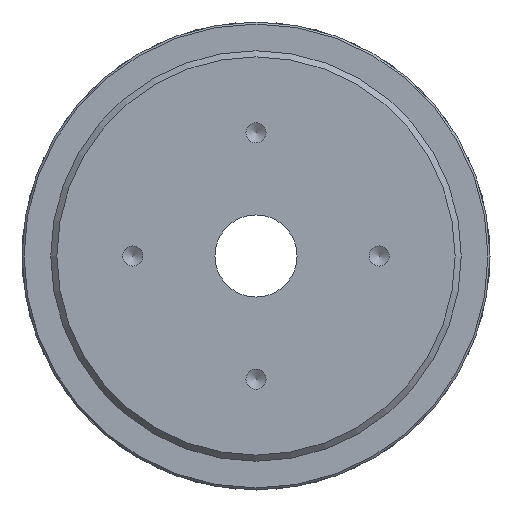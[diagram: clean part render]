
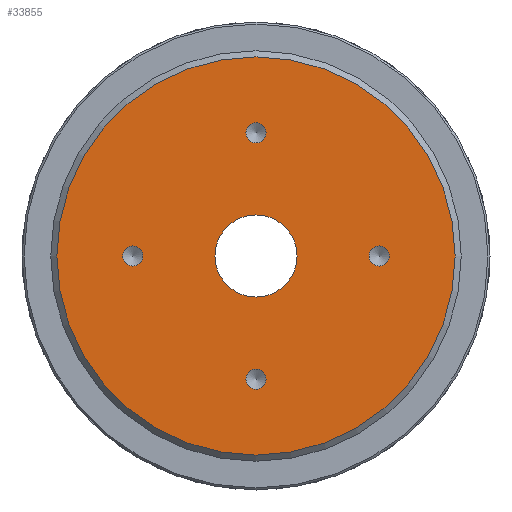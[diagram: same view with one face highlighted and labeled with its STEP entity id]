
A CAD part, left-side view. The second image highlights one B-rep face of the part: STEP entity #33855.
In plain terms, the highlighted planar face has unit normal (-1, 0, 0).
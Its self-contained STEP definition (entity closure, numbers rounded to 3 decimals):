
#3050=FACE_BOUND('',#10518,.T.);
#3051=FACE_BOUND('',#10519,.T.);
#3052=FACE_BOUND('',#10520,.T.);
#3053=FACE_BOUND('',#10521,.T.);
#3054=FACE_BOUND('',#10522,.T.);
#8744=FACE_OUTER_BOUND('',#10517,.T.);
#10517=EDGE_LOOP('',(#30371));
#10518=EDGE_LOOP('',(#30372,#30373));
#10519=EDGE_LOOP('',(#30374,#30375));
#10520=EDGE_LOOP('',(#30376,#30377));
#10521=EDGE_LOOP('',(#30378,#30379));
#10522=EDGE_LOOP('',(#30380,#30381));
#11506=CIRCLE('',#38775,48.5);
#11507=CIRCLE('',#38777,10.);
#11508=CIRCLE('',#38778,10.);
#11509=CIRCLE('',#38779,2.459);
#11510=CIRCLE('',#38780,2.459);
#11511=CIRCLE('',#38781,2.459);
#11512=CIRCLE('',#38782,2.459);
#11513=CIRCLE('',#38783,2.459);
#11514=CIRCLE('',#38784,2.459);
#11515=CIRCLE('',#38785,2.459);
#11516=CIRCLE('',#38786,2.459);
#14943=VERTEX_POINT('',#61040);
#14944=VERTEX_POINT('',#61044);
#14945=VERTEX_POINT('',#61045);
#14946=VERTEX_POINT('',#61048);
#14947=VERTEX_POINT('',#61049);
#14948=VERTEX_POINT('',#61052);
#14949=VERTEX_POINT('',#61053);
#14950=VERTEX_POINT('',#61056);
#14951=VERTEX_POINT('',#61057);
#14952=VERTEX_POINT('',#61060);
#14953=VERTEX_POINT('',#61061);
#20098=EDGE_CURVE('',#14943,#14943,#11506,.T.);
#20099=EDGE_CURVE('',#14944,#14945,#11507,.T.);
#20100=EDGE_CURVE('',#14945,#14944,#11508,.T.);
#20101=EDGE_CURVE('',#14946,#14947,#11509,.T.);
#20102=EDGE_CURVE('',#14947,#14946,#11510,.T.);
#20103=EDGE_CURVE('',#14948,#14949,#11511,.T.);
#20104=EDGE_CURVE('',#14949,#14948,#11512,.T.);
#20105=EDGE_CURVE('',#14950,#14951,#11513,.T.);
#20106=EDGE_CURVE('',#14951,#14950,#11514,.T.);
#20107=EDGE_CURVE('',#14952,#14953,#11515,.T.);
#20108=EDGE_CURVE('',#14953,#14952,#11516,.T.);
#30371=ORIENTED_EDGE('',*,*,#20098,.F.);
#30372=ORIENTED_EDGE('',*,*,#20099,.T.);
#30373=ORIENTED_EDGE('',*,*,#20100,.T.);
#30374=ORIENTED_EDGE('',*,*,#20101,.T.);
#30375=ORIENTED_EDGE('',*,*,#20102,.T.);
#30376=ORIENTED_EDGE('',*,*,#20103,.T.);
#30377=ORIENTED_EDGE('',*,*,#20104,.T.);
#30378=ORIENTED_EDGE('',*,*,#20105,.T.);
#30379=ORIENTED_EDGE('',*,*,#20106,.T.);
#30380=ORIENTED_EDGE('',*,*,#20107,.T.);
#30381=ORIENTED_EDGE('',*,*,#20108,.T.);
#32122=PLANE('',#38776);
#33855=ADVANCED_FACE('',(#8744,#3050,#3051,#3052,#3053,#3054),#32122,.T.);
#38775=AXIS2_PLACEMENT_3D('',#61042,#50519,#50520);
#38776=AXIS2_PLACEMENT_3D('',#61043,#50521,#50522);
#38777=AXIS2_PLACEMENT_3D('',#61046,#50523,#50524);
#38778=AXIS2_PLACEMENT_3D('',#61047,#50525,#50526);
#38779=AXIS2_PLACEMENT_3D('',#61050,#50527,#50528);
#38780=AXIS2_PLACEMENT_3D('',#61051,#50529,#50530);
#38781=AXIS2_PLACEMENT_3D('',#61054,#50531,#50532);
#38782=AXIS2_PLACEMENT_3D('',#61055,#50533,#50534);
#38783=AXIS2_PLACEMENT_3D('',#61058,#50535,#50536);
#38784=AXIS2_PLACEMENT_3D('',#61059,#50537,#50538);
#38785=AXIS2_PLACEMENT_3D('',#61062,#50539,#50540);
#38786=AXIS2_PLACEMENT_3D('',#61063,#50541,#50542);
#50519=DIRECTION('center_axis',(1.,0.,0.));
#50520=DIRECTION('ref_axis',(0.,-1.,0.));
#50521=DIRECTION('center_axis',(-1.,0.,0.));
#50522=DIRECTION('ref_axis',(0.,0.,1.));
#50523=DIRECTION('center_axis',(1.,0.,0.));
#50524=DIRECTION('ref_axis',(0.,0.,-1.));
#50525=DIRECTION('center_axis',(1.,0.,0.));
#50526=DIRECTION('ref_axis',(0.,0.,-1.));
#50527=DIRECTION('center_axis',(1.,0.,0.));
#50528=DIRECTION('ref_axis',(0.,0.,1.));
#50529=DIRECTION('center_axis',(1.,0.,0.));
#50530=DIRECTION('ref_axis',(0.,0.,1.));
#50531=DIRECTION('center_axis',(1.,0.,0.));
#50532=DIRECTION('ref_axis',(0.,0.,1.));
#50533=DIRECTION('center_axis',(1.,0.,0.));
#50534=DIRECTION('ref_axis',(0.,0.,1.));
#50535=DIRECTION('center_axis',(1.,0.,0.));
#50536=DIRECTION('ref_axis',(0.,0.,1.));
#50537=DIRECTION('center_axis',(1.,0.,0.));
#50538=DIRECTION('ref_axis',(0.,0.,1.));
#50539=DIRECTION('center_axis',(1.,0.,0.));
#50540=DIRECTION('ref_axis',(0.,0.,1.));
#50541=DIRECTION('center_axis',(1.,0.,0.));
#50542=DIRECTION('ref_axis',(0.,0.,1.));
#61040=CARTESIAN_POINT('',(-13.,48.5,0.));
#61042=CARTESIAN_POINT('Origin',(-13.,0.,0.));
#61043=CARTESIAN_POINT('Origin',(-13.,50.,0.));
#61044=CARTESIAN_POINT('',(-13.,10.,0.));
#61045=CARTESIAN_POINT('',(-13.,-10.,0.));
#61046=CARTESIAN_POINT('Origin',(-13.,0.,0.));
#61047=CARTESIAN_POINT('Origin',(-13.,0.,0.));
#61048=CARTESIAN_POINT('',(-13.,0.,32.459));
#61049=CARTESIAN_POINT('',(-13.,0.,27.542));
#61050=CARTESIAN_POINT('Origin',(-13.,0.,30.));
#61051=CARTESIAN_POINT('Origin',(-13.,0.,30.));
#61052=CARTESIAN_POINT('',(-13.,0.,-27.542));
#61053=CARTESIAN_POINT('',(-13.,0.,-32.459));
#61054=CARTESIAN_POINT('Origin',(-13.,0.,-30.));
#61055=CARTESIAN_POINT('Origin',(-13.,0.,-30.));
#61056=CARTESIAN_POINT('',(-13.,30.,2.459));
#61057=CARTESIAN_POINT('',(-13.,30.,-2.459));
#61058=CARTESIAN_POINT('Origin',(-13.,30.,0.));
#61059=CARTESIAN_POINT('Origin',(-13.,30.,0.));
#61060=CARTESIAN_POINT('',(-13.,-30.,2.459));
#61061=CARTESIAN_POINT('',(-13.,-30.,-2.459));
#61062=CARTESIAN_POINT('Origin',(-13.,-30.,0.));
#61063=CARTESIAN_POINT('Origin',(-13.,-30.,0.));
